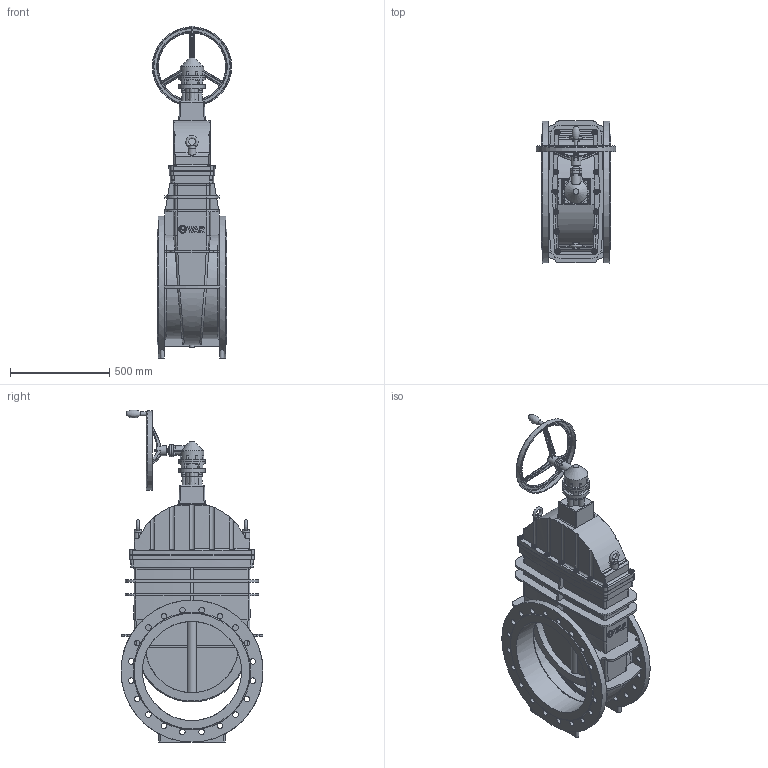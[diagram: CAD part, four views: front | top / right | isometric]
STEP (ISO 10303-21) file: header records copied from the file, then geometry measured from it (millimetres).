
FILE_DESCRIPTION(('STEP AP242'), '1');
FILE_NAME('青溻桄赅', '', ('UNSPECIFIED'), ('UNSPECIFIED'), 'C3D Converter', 'C3D Toolkit', '');
FILE_SCHEMA(('AP242_MANAGED_MODEL_BASED_3D_ENGINEERING_MIM_LF { 1 0 10303 442 1 1 4 }'));
Length unit declared in the file: millimetre
Assembly tree (43 placements, depth 3):
  (unnamed)
    (unnamed)
    (unnamed)
      (unnamed)  x2
    (unnamed)
    (unnamed)  x2
    (unnamed)
    (unnamed)
    (unnamed)
    (unnamed)
    (unnamed)
    (unnamed)  x14
    (unnamed)  x4
    (unnamed)  x12
    (unnamed)
Bounding box: 400 x 715 x 1672.32 mm (x, y, z)
Volume: 50300619.1 mm3; surface area: 6645840.3 mm2
Topology: 49 solids, 49 shells, 1945 faces, 4670 edges, 2927 vertices
Faces by surface type: plane 952, cylinder 498, cone 180, extrusion 143, bspline 95, torus 77
Full cylindrical faces by diameter (mm): 3 x12, 4 x36, 6 x7, 7 x12, 8 x12, 10 x14, 12 x64, 13 x4, 16 x4, 18 x32, 20 x5, 28 x40, 29 x10, 38.88 x1, 40 x1, 50 x6, 60 x2, 101.639 x2, 117.097 x1, 132.554 x3, 340 x1, 350 x1, 390 x1, 400 x1, 468.5 x2, 500 x4, 537.8 x4, 563 x1, 715 x2
Entity records: 75464 total; most frequent: CARTESIAN_POINT 41771, ORIENTED_EDGE 6040, DIRECTION 5684, EDGE_CURVE 3020, AXIS2_PLACEMENT_3D 2167, VERTEX_POINT 2093, EDGE_LOOP 1861, FACE_BOUND 1411
